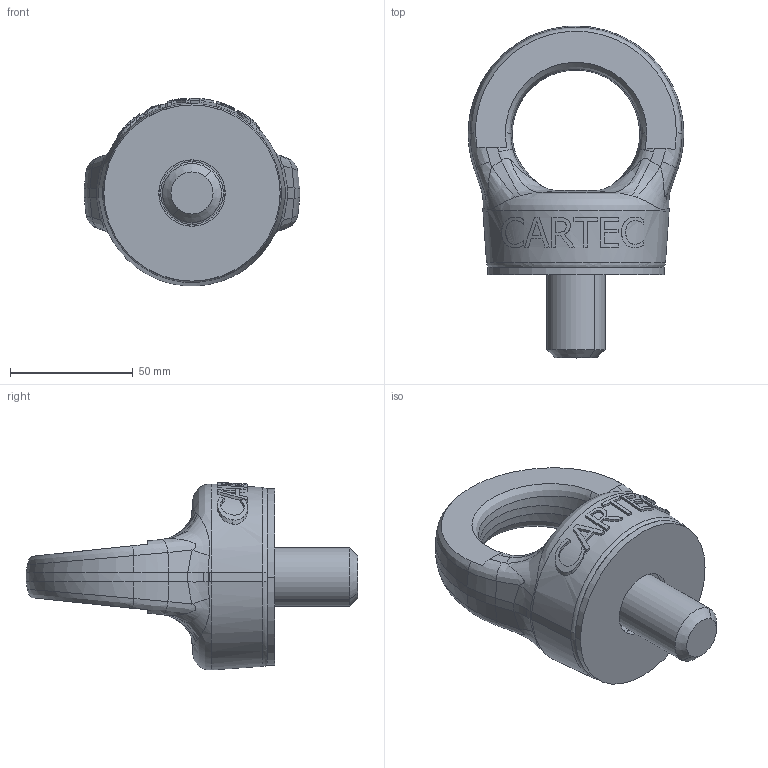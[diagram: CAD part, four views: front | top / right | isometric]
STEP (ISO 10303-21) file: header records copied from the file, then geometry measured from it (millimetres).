
FILE_DESCRIPTION(('STEP AP214'),'1');
FILE_NAME('c817x24.stp','2017-03-27T13:10:28',('TraceParts'),('TraceParts S.A.'),'Spatial InterOp 3D',' ',' ');
FILE_SCHEMA(('automotive_design'));
Length unit declared in the file: millimetre
Products named in the file (3): c817x24_1; c817x24_2; c817x24_3
Bounding box: 88 x 135.49 x 76.73 mm (x, y, z)
Volume: 212855.6 mm3; surface area: 44077.3 mm2
Topology: 3 solids, 3 shells, 229 faces, 632 edges, 415 vertices
Faces by surface type: bspline 115, plane 78, cylinder 30, torus 4, cone 2
Entity records: 18681 total; most frequent: CARTESIAN_POINT 11722, ORIENTED_EDGE 1260, DIRECTION 751, EDGE_CURVE 630, VERTEX_POINT 415, AXIS2_PLACEMENT_3D 284, B_SPLINE_CURVE_WITH_KNOTS 280, EDGE_LOOP 243
